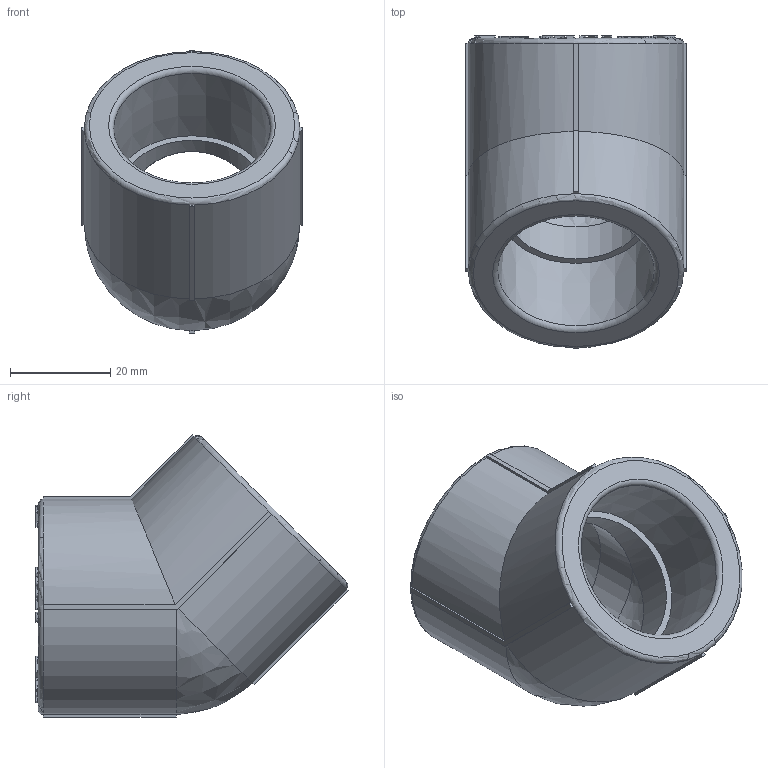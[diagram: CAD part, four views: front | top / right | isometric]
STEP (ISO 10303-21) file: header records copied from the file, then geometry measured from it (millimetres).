
FILE_DESCRIPTION(('STEP AP203'), '1');
FILE_NAME('ÂÐ.752216.011 - VTp.759.0.032', '', ('UNSPECIFIED'), ('UNSPECIFIED'), 'C3D Converter', 'C3D Toolkit', '');
FILE_SCHEMA(('CONFIG_CONTROL_DESIGN'));
Length unit declared in the file: millimetre
Products named in the file (1): ВР.752216.011
Bounding box: 44 x 62.29 x 56.29 mm (x, y, z)
Volume: 39916.6 mm3; surface area: 14351.6 mm2
Topology: 1 solids, 1 shells, 589 faces, 1643 edges, 1085 vertices
Faces by surface type: extrusion 330, plane 241, cylinder 10, torus 4, cone 2, sphere 2
Full cylindrical faces by diameter (mm): 28.5 x2
Entity records: 19143 total; most frequent: CARTESIAN_POINT 5297, ORIENTED_EDGE 3266, DIRECTION 1860, EDGE_CURVE 1633, VECTOR 1260, VERTEX_POINT 1085, B_SPLINE_CURVE_WITH_KNOTS 990, LINE 930
